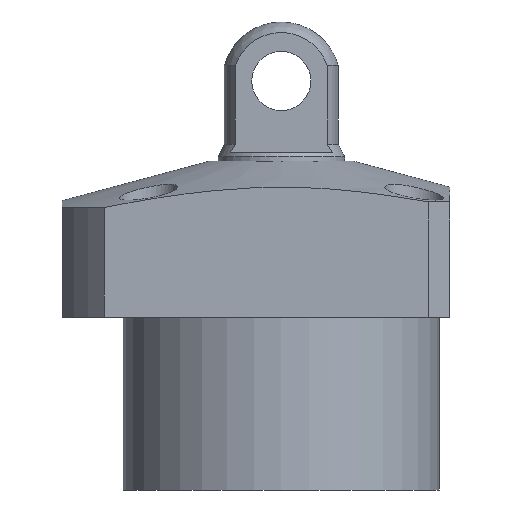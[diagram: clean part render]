
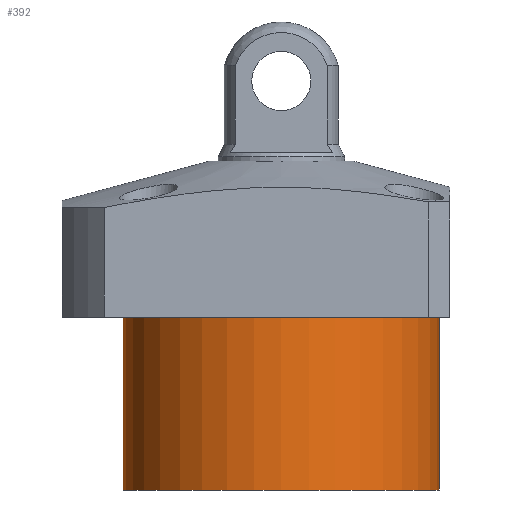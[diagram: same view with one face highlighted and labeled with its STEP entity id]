
A CAD part, front view. The second image highlights one B-rep face of the part: STEP entity #392.
In plain terms, the highlighted cylindrical face has radius 37.5 mm (diameter 75 mm), a partial arc.
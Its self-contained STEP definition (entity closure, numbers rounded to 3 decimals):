
#86 = DIRECTION ( 'NONE',  ( -1., 0., 0. ) ) ;
#108 = VECTOR ( 'NONE', #600, 1000. ) ;
#110 = DIRECTION ( 'NONE',  ( 1., 0., 0. ) ) ;
#306 = CARTESIAN_POINT ( 'NONE',  ( 0., 0., -59.5 ) ) ;
#326 = CARTESIAN_POINT ( 'NONE',  ( -37.5, 0., -59.5 ) ) ;
#349 = VERTEX_POINT ( 'NONE', #468 ) ;
#392 = ADVANCED_FACE ( 'NONE', ( #730 ), #2345, .T. ) ;
#468 = CARTESIAN_POINT ( 'NONE',  ( -37.5, 0., -59.5 ) ) ;
#497 = ORIENTED_EDGE ( 'NONE', *, *, #1052, .F. ) ;
#588 = CARTESIAN_POINT ( 'NONE',  ( 0., 0., -18.5 ) ) ;
#600 = DIRECTION ( 'NONE',  ( 0., 0., 1. ) ) ;
#675 = AXIS2_PLACEMENT_3D ( 'NONE', #306, #1966, #110 ) ;
#714 = ORIENTED_EDGE ( 'NONE', *, *, #2062, .T. ) ;
#730 = FACE_OUTER_BOUND ( 'NONE', #2046, .T. ) ;
#798 = AXIS2_PLACEMENT_3D ( 'NONE', #588, #1010, #2129 ) ;
#936 = LINE ( 'NONE', #326, #108 ) ;
#1010 = DIRECTION ( 'NONE',  ( 0., 0., -1. ) ) ;
#1026 = CARTESIAN_POINT ( 'NONE',  ( -37.5, 0., -18.5 ) ) ;
#1052 = EDGE_CURVE ( 'NONE', #349, #1499, #936, .T. ) ;
#1148 = VERTEX_POINT ( 'NONE', #1172 ) ;
#1172 = CARTESIAN_POINT ( 'NONE',  ( 37.5, 0., -59.5 ) ) ;
#1182 = DIRECTION ( 'NONE',  ( 0., 0., 1. ) ) ;
#1216 = AXIS2_PLACEMENT_3D ( 'NONE', #1764, #2338, #86 ) ;
#1231 = VECTOR ( 'NONE', #1182, 1000. ) ;
#1270 = ORIENTED_EDGE ( 'NONE', *, *, #1983, .T. ) ;
#1499 = VERTEX_POINT ( 'NONE', #1026 ) ;
#1502 = VERTEX_POINT ( 'NONE', #1751 ) ;
#1624 = ORIENTED_EDGE ( 'NONE', *, *, #2004, .F. ) ;
#1672 = CIRCLE ( 'NONE', #1216, 37.5 ) ;
#1751 = CARTESIAN_POINT ( 'NONE',  ( 37.5, 0., -18.5 ) ) ;
#1762 = LINE ( 'NONE', #2126, #1231 ) ;
#1764 = CARTESIAN_POINT ( 'NONE',  ( 0., 0., -59.5 ) ) ;
#1966 = DIRECTION ( 'NONE',  ( 0., 0., 1. ) ) ;
#1983 = EDGE_CURVE ( 'NONE', #1148, #1502, #1762, .T. ) ;
#2004 = EDGE_CURVE ( 'NONE', #1148, #349, #1672, .T. ) ;
#2046 = EDGE_LOOP ( 'NONE', ( #497, #1624, #1270, #714 ) ) ;
#2062 = EDGE_CURVE ( 'NONE', #1502, #1499, #2121, .T. ) ;
#2121 = CIRCLE ( 'NONE', #798, 37.5 ) ;
#2126 = CARTESIAN_POINT ( 'NONE',  ( 37.5, 0., -59.5 ) ) ;
#2129 = DIRECTION ( 'NONE',  ( 1., 0., 0. ) ) ;
#2338 = DIRECTION ( 'NONE',  ( 0., 0., -1. ) ) ;
#2345 = CYLINDRICAL_SURFACE ( 'NONE', #675, 37.5 ) ;
